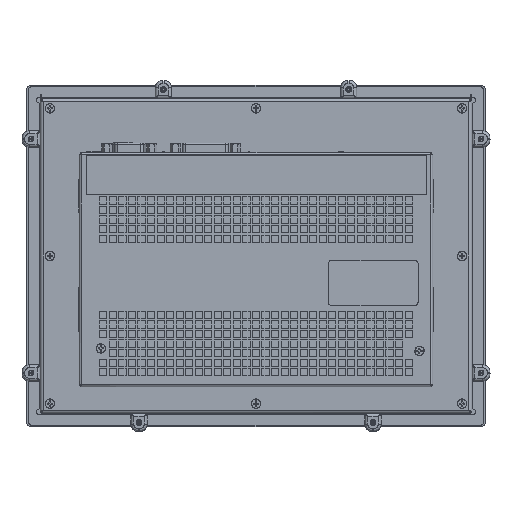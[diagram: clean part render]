
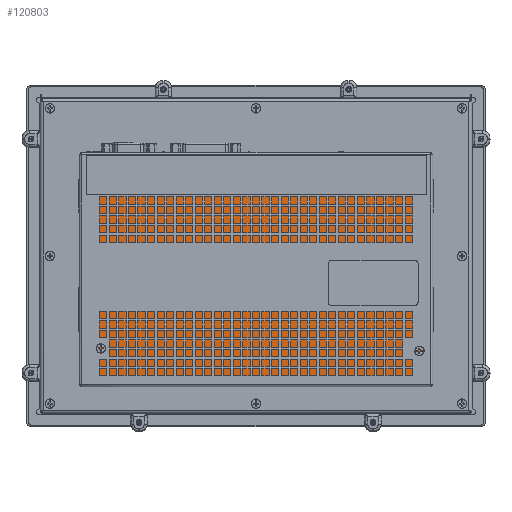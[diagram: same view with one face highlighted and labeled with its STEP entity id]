
A CAD part, front view. The second image highlights one B-rep face of the part: STEP entity #120803.
In plain terms, the highlighted planar face has unit normal (0, -1, 0) as drawn and (0, 0, 1) by its records, which use the part's own axes.
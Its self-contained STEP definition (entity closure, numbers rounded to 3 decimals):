
#4302 = ORIENTED_EDGE ( 'NONE', *, *, #98086, .T. ) ;
#7847 = AXIS2_PLACEMENT_3D ( 'NONE', #162803, #319996, #295080 ) ;
#13329 = EDGE_CURVE ( 'NONE', #173591, #140845, #108227, .T. ) ;
#56077 = LINE ( 'NONE', #221381, #290769 ) ;
#87623 = CARTESIAN_POINT ( 'NONE',  ( -1.88, 126.271, 27. ) ) ;
#94782 = VERTEX_POINT ( 'NONE', #87623 ) ;
#98086 = EDGE_CURVE ( 'NONE', #172017, #173591, #56077, .T. ) ;
#108227 = LINE ( 'NONE', #128545, #270147 ) ;
#109421 = VECTOR ( 'NONE', #160206, 1000. ) ;
#120105 = CARTESIAN_POINT ( 'NONE',  ( 192.02, 126.271, 27. ) ) ;
#120803 = ADVANCED_FACE ( 'NONE', ( #123392 ), #139042, .T. ) ;
#123392 = FACE_OUTER_BOUND ( 'NONE', #149673, .T. ) ;
#128545 = CARTESIAN_POINT ( 'NONE',  ( 192.02, 62.571, 27. ) ) ;
#132512 = CARTESIAN_POINT ( 'NONE',  ( 95.07, 126.271, 27. ) ) ;
#139042 = PLANE ( 'NONE',  #7847 ) ;
#140845 = VERTEX_POINT ( 'NONE', #120105 ) ;
#149673 = EDGE_LOOP ( 'NONE', ( #233618, #4302, #179521, #165945 ) ) ;
#158578 = DIRECTION ( 'NONE',  ( -1., 0., 0. ) ) ;
#159636 = LINE ( 'NONE', #132512, #244723 ) ;
#160206 = DIRECTION ( 'NONE',  ( 0., -1., 0. ) ) ;
#162803 = CARTESIAN_POINT ( 'NONE',  ( 95.07, 62.571, 27. ) ) ;
#165945 = ORIENTED_EDGE ( 'NONE', *, *, #303757, .T. ) ;
#172017 = VERTEX_POINT ( 'NONE', #203675 ) ;
#173591 = VERTEX_POINT ( 'NONE', #186655 ) ;
#178223 = LINE ( 'NONE', #184019, #109421 ) ;
#179521 = ORIENTED_EDGE ( 'NONE', *, *, #13329, .T. ) ;
#184019 = CARTESIAN_POINT ( 'NONE',  ( -1.88, 62.571, 27. ) ) ;
#186655 = CARTESIAN_POINT ( 'NONE',  ( 192.02, -1.129, 27. ) ) ;
#203675 = CARTESIAN_POINT ( 'NONE',  ( -1.88, -1.129, 27. ) ) ;
#221381 = CARTESIAN_POINT ( 'NONE',  ( 95.07, -1.129, 27. ) ) ;
#233618 = ORIENTED_EDGE ( 'NONE', *, *, #239416, .T. ) ;
#239416 = EDGE_CURVE ( 'NONE', #94782, #172017, #178223, .T. ) ;
#244723 = VECTOR ( 'NONE', #158578, 1000. ) ;
#270147 = VECTOR ( 'NONE', #332127, 1000. ) ;
#290769 = VECTOR ( 'NONE', #325375, 1000. ) ;
#295080 = DIRECTION ( 'NONE',  ( 1., 0., 0. ) ) ;
#303757 = EDGE_CURVE ( 'NONE', #140845, #94782, #159636, .T. ) ;
#319996 = DIRECTION ( 'NONE',  ( 0., 0., 1. ) ) ;
#325375 = DIRECTION ( 'NONE',  ( 1., 0., 0. ) ) ;
#332127 = DIRECTION ( 'NONE',  ( 0., 1., 0. ) ) ;
